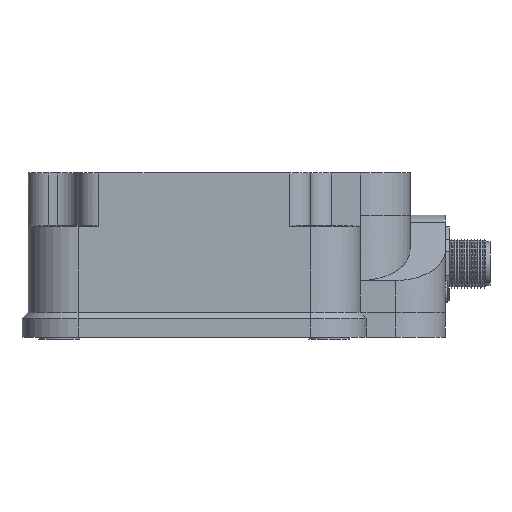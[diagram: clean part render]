
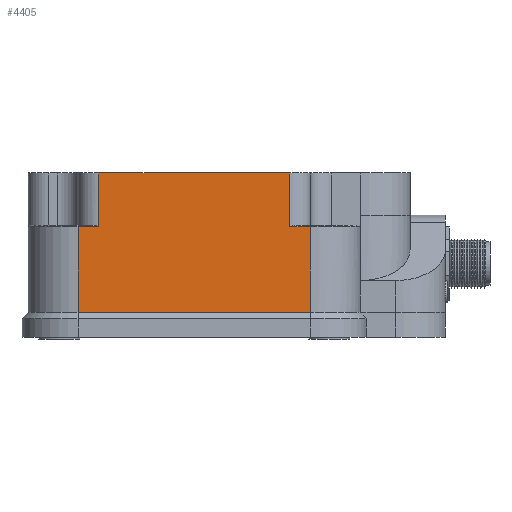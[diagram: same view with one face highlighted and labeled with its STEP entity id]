
A CAD part, left-side view. The second image highlights one B-rep face of the part: STEP entity #4405.
In plain terms, the highlighted planar face has unit normal (-1, 0, 0).
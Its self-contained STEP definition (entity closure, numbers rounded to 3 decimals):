
#4 = DIRECTION ( 'NONE',  ( 0., -1., 0. ) ) ;
#127 = VERTEX_POINT ( 'NONE', #5148 ) ;
#216 = VECTOR ( 'NONE', #583, 1000. ) ;
#507 = VECTOR ( 'NONE', #5178, 1000. ) ;
#583 = DIRECTION ( 'NONE',  ( 0., -1., 0. ) ) ;
#602 = EDGE_CURVE ( 'NONE', #4184, #127, #5595, .T. ) ;
#603 = CARTESIAN_POINT ( 'NONE',  ( -40., 34., 6.95 ) ) ;
#606 = DIRECTION ( 'NONE',  ( 0., 0., 1. ) ) ;
#798 = VERTEX_POINT ( 'NONE', #1886 ) ;
#905 = CARTESIAN_POINT ( 'NONE',  ( -40., -22., -19.75 ) ) ;
#921 = ORIENTED_EDGE ( 'NONE', *, *, #4705, .T. ) ;
#926 = DIRECTION ( 'NONE',  ( 0., -1., 0. ) ) ;
#932 = VECTOR ( 'NONE', #606, 1000. ) ;
#933 = DIRECTION ( 'NONE',  ( 0., -1., 0. ) ) ;
#1045 = CARTESIAN_POINT ( 'NONE',  ( -40., -22., -13.75 ) ) ;
#1047 = LINE ( 'NONE', #2754, #3624 ) ;
#1062 = ORIENTED_EDGE ( 'NONE', *, *, #602, .F. ) ;
#1555 = ORIENTED_EDGE ( 'NONE', *, *, #4023, .T. ) ;
#1612 = CARTESIAN_POINT ( 'NONE',  ( -40., -24.485, 6.95 ) ) ;
#1645 = VECTOR ( 'NONE', #3945, 1000. ) ;
#1688 = EDGE_CURVE ( 'NONE', #127, #2253, #1047, .T. ) ;
#1718 = EDGE_CURVE ( 'NONE', #5030, #4184, #2272, .T. ) ;
#1844 = DIRECTION ( 'NONE',  ( 0., 0., 1. ) ) ;
#1886 = CARTESIAN_POINT ( 'NONE',  ( -40., -22., 6.95 ) ) ;
#1964 = CARTESIAN_POINT ( 'NONE',  ( -40., -17., 0. ) ) ;
#1966 = ORIENTED_EDGE ( 'NONE', *, *, #1688, .F. ) ;
#1986 = EDGE_CURVE ( 'NONE', #4058, #798, #3300, .T. ) ;
#2074 = VERTEX_POINT ( 'NONE', #3411 ) ;
#2123 = CARTESIAN_POINT ( 'NONE',  ( -40., 29., 0. ) ) ;
#2253 = VERTEX_POINT ( 'NONE', #5254 ) ;
#2272 = LINE ( 'NONE', #2770, #3516 ) ;
#2460 = ORIENTED_EDGE ( 'NONE', *, *, #1718, .F. ) ;
#2570 = EDGE_CURVE ( 'NONE', #2074, #5030, #5379, .T. ) ;
#2754 = CARTESIAN_POINT ( 'NONE',  ( -40., -22., 19.85 ) ) ;
#2770 = CARTESIAN_POINT ( 'NONE',  ( -40., 8.485, 6.95 ) ) ;
#2822 = CARTESIAN_POINT ( 'NONE',  ( -40., -22., -13.75 ) ) ;
#3199 = PLANE ( 'NONE',  #4661 ) ;
#3300 = LINE ( 'NONE', #1612, #4538 ) ;
#3411 = CARTESIAN_POINT ( 'NONE',  ( -40., 34., -13.75 ) ) ;
#3465 = ORIENTED_EDGE ( 'NONE', *, *, #5514, .T. ) ;
#3516 = VECTOR ( 'NONE', #926, 1000. ) ;
#3624 = VECTOR ( 'NONE', #4, 1000. ) ;
#3673 = DIRECTION ( 'NONE',  ( -1., 0., 0. ) ) ;
#3817 = CARTESIAN_POINT ( 'NONE',  ( -40., -22., -19.75 ) ) ;
#3875 = LINE ( 'NONE', #1045, #216 ) ;
#3903 = ORIENTED_EDGE ( 'NONE', *, *, #1986, .F. ) ;
#3945 = DIRECTION ( 'NONE',  ( 0., 0., 1. ) ) ;
#3957 = VERTEX_POINT ( 'NONE', #2822 ) ;
#4023 = EDGE_CURVE ( 'NONE', #4058, #2253, #5264, .T. ) ;
#4058 = VERTEX_POINT ( 'NONE', #4272 ) ;
#4152 = VECTOR ( 'NONE', #1844, 1000. ) ;
#4184 = VERTEX_POINT ( 'NONE', #5777 ) ;
#4254 = FACE_OUTER_BOUND ( 'NONE', #5135, .T. ) ;
#4272 = CARTESIAN_POINT ( 'NONE',  ( -40., -17., 6.95 ) ) ;
#4365 = DIRECTION ( 'NONE',  ( 0., -1., 0. ) ) ;
#4405 = ADVANCED_FACE ( 'NONE', ( #4254 ), #3199, .T. ) ;
#4538 = VECTOR ( 'NONE', #4365, 1000. ) ;
#4607 = CARTESIAN_POINT ( 'NONE',  ( -40., 34., -19.75 ) ) ;
#4661 = AXIS2_PLACEMENT_3D ( 'NONE', #905, #3673, #933 ) ;
#4705 = EDGE_CURVE ( 'NONE', #2074, #3957, #3875, .T. ) ;
#5030 = VERTEX_POINT ( 'NONE', #603 ) ;
#5135 = EDGE_LOOP ( 'NONE', ( #5501, #921, #3465, #3903, #1555, #1966, #1062, #2460 ) ) ;
#5148 = CARTESIAN_POINT ( 'NONE',  ( -40., 29., 19.85 ) ) ;
#5178 = DIRECTION ( 'NONE',  ( 0., 0., 1. ) ) ;
#5254 = CARTESIAN_POINT ( 'NONE',  ( -40., -17., 19.85 ) ) ;
#5264 = LINE ( 'NONE', #1964, #507 ) ;
#5379 = LINE ( 'NONE', #4607, #4152 ) ;
#5501 = ORIENTED_EDGE ( 'NONE', *, *, #2570, .F. ) ;
#5514 = EDGE_CURVE ( 'NONE', #3957, #798, #5666, .T. ) ;
#5595 = LINE ( 'NONE', #2123, #1645 ) ;
#5666 = LINE ( 'NONE', #3817, #932 ) ;
#5777 = CARTESIAN_POINT ( 'NONE',  ( -40., 29., 6.95 ) ) ;
